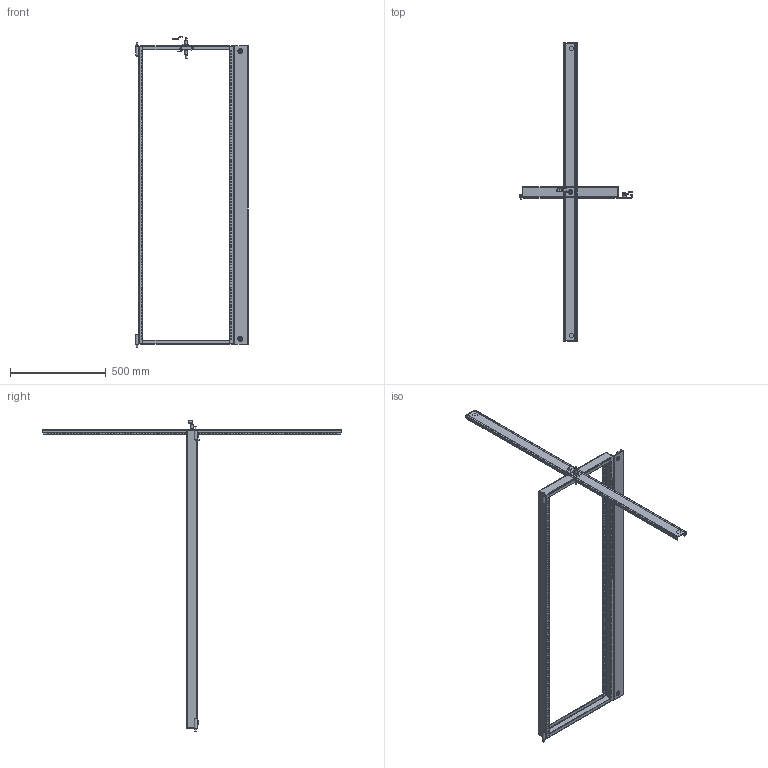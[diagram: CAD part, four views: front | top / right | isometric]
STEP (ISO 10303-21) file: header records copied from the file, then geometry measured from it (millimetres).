
FILE_DESCRIPTION( ( 'Unknown' ), '1' );
FILE_NAME( 'Q:/ACCESSORIES/SWING FRAME/WEB DRAWINGS/STEP/IMESWF167.stp', 'Unknown', ( 'Unknown' ), ( 'Unknown' ), 'XStep 1.0', 'Unknown', ' ' );
FILE_SCHEMA( ( 'CONFIG_CONTROL_DESIGN' ) );
Length unit declared in the file: millimetre
Products named in the file (11): Assem1; Assem2; Assem3; 1; 2; 3; 4; 5; 6; 7; 8
Bounding box: 588.96 x 1555.75 x 1619.06 mm (x, y, z)
Volume: 3963790.5 mm3; surface area: 3030996.8 mm2
Topology: 31 solids, 31 shells, 1629 faces, 4541 edges, 3006 vertices
Faces by surface type: cylinder 1136, plane 468, cone 16, torus 6, bspline 3
Full cylindrical faces by diameter (mm): 4.496 x1020, 5.994 x3, 6 x4, 8.992 x6, 9.83 x4, 12.7 x4, 13.005 x3, 13.335 x4, 13.995 x3, 14.986 x3, 16.002 x4, 19.939 x4, 25.4 x4
Entity records: 11855 total; most frequent: DIRECTION 1982, CARTESIAN_POINT 1819, ORIENTED_EDGE 1518, EDGE_LOOP 1008, AXIS2_PLACEMENT_3D 854, EDGE_CURVE 759, VERTEX_POINT 647, FACE_OUTER_BOUND 580
